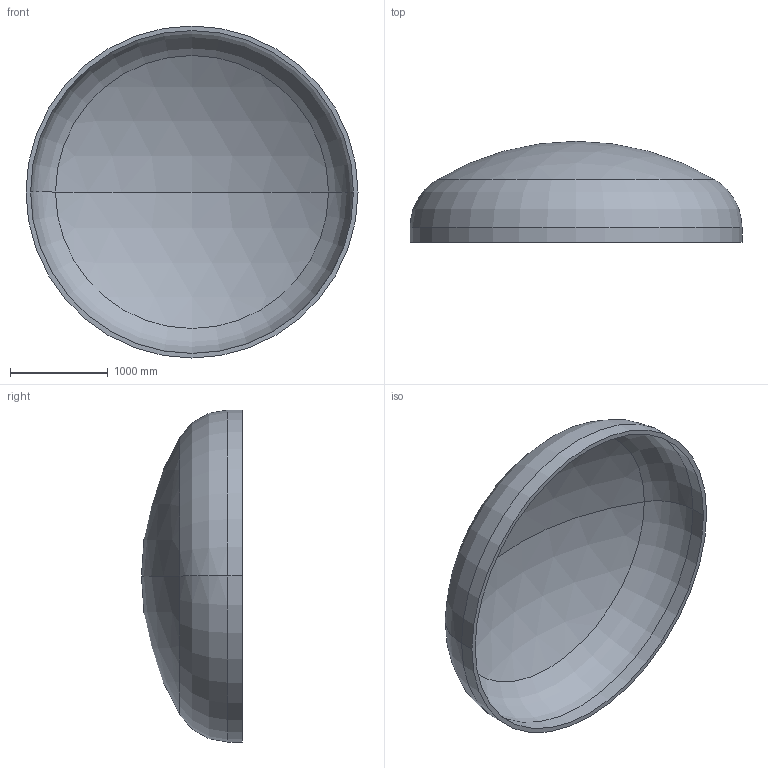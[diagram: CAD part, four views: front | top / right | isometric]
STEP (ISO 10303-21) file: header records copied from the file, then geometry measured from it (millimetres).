
FILE_DESCRIPTION (( 'STEP AP203' ), '1' );
FILE_NAME ('DIN 28013 Korbbogenform_-_Boden DIN 28013 - 3400 x 150 - I - s=47.step', '2016-07-01T19:33:42', ( '' ), ( '' ), 'SwSTEP 2.0', 'SolidWorks 2013', '' );
FILE_SCHEMA (( 'CONFIG_CONTROL_DESIGN' ));
Length unit declared in the file: millimetre
Products named in the file (1): DIN 28013 Korbbogenform_-_Boden DIN 28013 - 3400 x 150 - I - s=47
Bounding box: 3400 x 1034.01 x 3400 mm (x, y, z)
Volume: 654876417.6 mm3; surface area: 28366785.2 mm2
Topology: 1 solids, 1 shells, 13 faces, 24 edges, 14 vertices
Faces by surface type: torus 4, cylinder 4, sphere 4, plane 1
Entity records: 407 total; most frequent: DIRECTION 72, CARTESIAN_POINT 52, ORIENTED_EDGE 48, AXIS2_PLACEMENT_3D 34, EDGE_CURVE 24, CIRCLE 20, EDGE_LOOP 14, VERTEX_POINT 14
